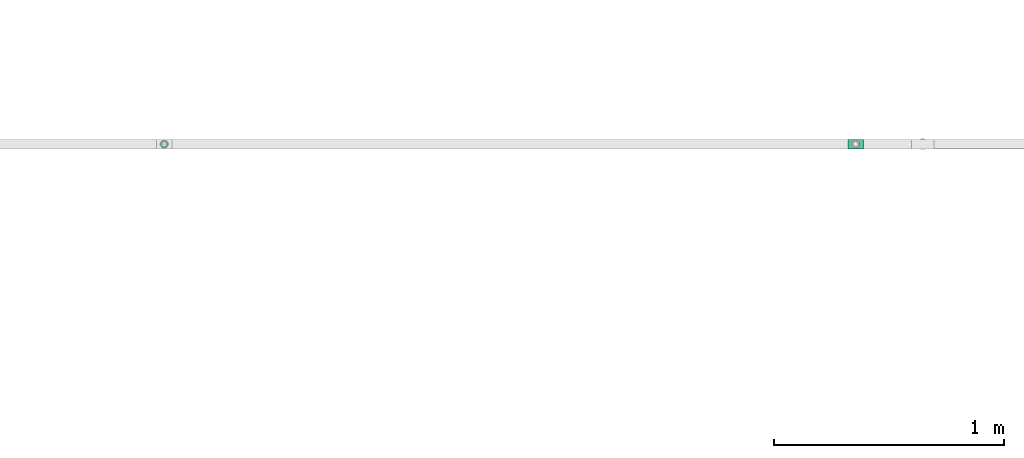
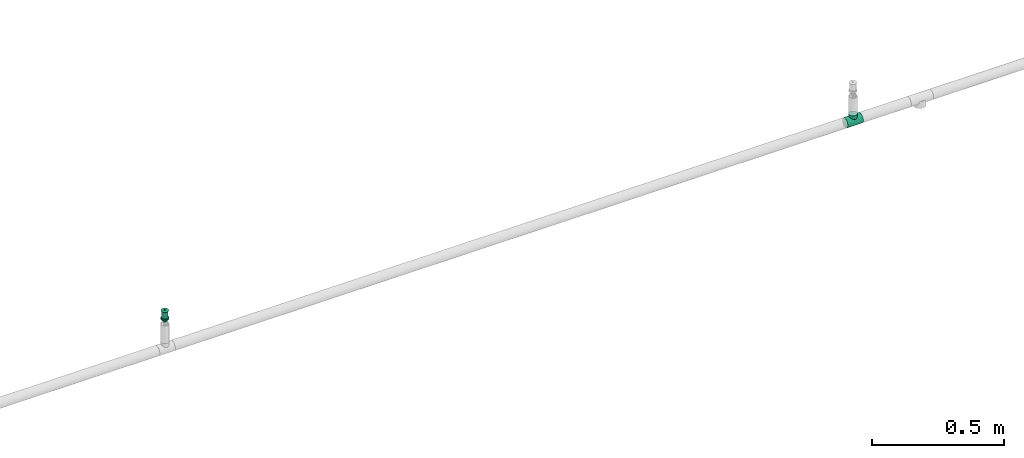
# One storey, part 87 of 94: 1 flow fitting, 1 flow terminal.
"""IFC2X3 building model written with IfcOpenShell, lengths in millimetres."""

from ifc_helpers import new_model, entity, si_unit, converted_unit, derived_unit, direction, frame, origin_with_axes, place, context, subcontext, project, spatial, open_shell, surface_model, source, transform, mapped, type_object, element, save


model = new_model("IFC2X3")

# Units and contexts
model_context = context("Model", 3, precision=0.01, world=frame((0.0, 4.29681676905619e-09, 0.0)), true_north=direction((4.01073788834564e-13, 1.0)))
plan_context = context("Plan", 3, precision=0.01, world=frame((0.0, 4.29681676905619e-09, 0.0)), true_north=direction((4.01073788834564e-13, 1.0)))
body_context = subcontext(model_context, "Body", "Model", "MODEL_VIEW")
ifc_project = project(units=[converted_unit("PLANEANGLEUNIT", "DEGREE", entity("IfcPositiveLengthMeasure", 0.0174532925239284), si_unit("PLANEANGLEUNIT", "RADIAN"), dimensions=[0, 0, 0, 0, 0, 0, 0]), si_unit("AREAUNIT", "SQUARE_METRE"), si_unit("LENGTHUNIT", "METRE", prefix="MILLI"), si_unit("MASSUNIT", "GRAM", prefix="KILO"), si_unit("POWERUNIT", "WATT"), si_unit("PRESSUREUNIT", "PASCAL"), si_unit("FORCEUNIT", "NEWTON", prefix="KILO"), si_unit("ELECTRICCURRENTUNIT", "AMPERE"), si_unit("THERMODYNAMICTEMPERATUREUNIT", "DEGREE_CELSIUS"), si_unit("TIMEUNIT", "SECOND"), si_unit("VOLUMEUNIT", "CUBIC_METRE"), derived_unit("LINEARVELOCITYUNIT", [(si_unit("LENGTHUNIT", "METRE"), 1), (si_unit("TIMEUNIT", "SECOND"), -1)]), derived_unit("VOLUMETRICFLOWRATEUNIT", [(si_unit("VOLUMEUNIT", "CUBIC_METRE"), 1), (si_unit("TIMEUNIT", "SECOND"), -1)]), derived_unit("THERMALTRANSMITTANCEUNIT", [(si_unit("POWERUNIT", "WATT"), 1), (si_unit("THERMODYNAMICTEMPERATUREUNIT", "KELVIN"), -1), (si_unit("AREAUNIT", "SQUARE_METRE"), -1)])], contexts=[model_context, plan_context])

# Site, building, storey
site_placement = place(None, frame((0.0, -4.29681676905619e-09, 0.0), z_axis=(0.0, 0.0, 1.0), x_axis=(1.0, 0.0, 0.0)))
site = spatial("IfcSite", under=ifc_project, at=site_placement, CompositionType="ELEMENT")
building_placement = place(site_placement, frame((0.0, 4.29681676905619e-09, 0.0), z_axis=(0.0, 0.0, 1.0), x_axis=(1.0, 0.0, 0.0)))
building = spatial("IfcBuilding", under=site, at=building_placement, Name="mc-building", CompositionType="ELEMENT")
storey_placement = place(building_placement, frame((0.0, 0.0, 200300.0), z_axis=(0.0, 0.0, 1.0), x_axis=(1.0, 0.0, 0.0)))
storey = spatial("IfcBuildingStorey", under=building, at=storey_placement, Name="Nivå C", CompositionType="ELEMENT", Elevation=200300.0)

# Flow fitting
pipe_fitting_type = type_object("IfcPipeFittingType", Name="magi_pipe_fe_tee_centric_90_NOR", PredefinedType="JUNCTION")
shared_shape_1 = source(origin_with_axes(), body_context, "Body", "SurfaceModel", [
    surface_model("IfcShellBasedSurfaceModel", [(-33.8, 0.0, -21.2), (-33.8, -5.48696, -20.47763), (-33.8, 5.48696, -20.47763), (-33.8, 10.6, -18.35974), (-33.8, 14.99066, -14.99066), (-33.8, -20.47763, 5.48696), (-33.8, 18.35974, -10.6), (-33.8, 10.6, 18.35974), (-33.8, -14.99066, -14.99066), (-33.8, -18.35974, -10.6), (-33.8, -10.6, -18.35974), (-33.8, -20.47763, -5.48696), (-33.8, -21.2, 0.0), (-33.8, 18.35974, 10.6), (-33.8, 20.47763, -5.48696), (-33.8, 20.47763, 5.48696), (-33.8, 21.2, 0.0), (-33.8, 14.99066, 14.99066), (-33.8, 5.48696, 20.47763), (-33.8, 0.0, 21.2), (-33.8, -18.35974, 10.6), (-33.8, -14.99066, 14.99066), (-33.8, -10.6, 18.35974), (-33.8, -5.48696, 20.47763), (33.8, 5.48696, -20.47763), (33.8, -5.48696, -20.47763), (33.8, 0.0, -21.2), (33.8, 14.99066, -14.99066), (33.8, 10.6, -18.35974), (33.8, 18.35974, -10.6), (33.8, 20.47763, -5.48696), (33.8, -21.2, 0.0), (33.8, -10.6, -18.35974), (33.8, -18.35974, -10.6), (33.8, -14.99066, -14.99066), (33.8, -20.47763, -5.48696), (33.8, -20.47763, 5.48696), (33.8, 21.2, 0.0), (33.8, 20.47763, 5.48696), (33.8, 18.35974, 10.6), (33.8, 10.6, 18.35974), (33.8, 14.99066, 14.99066), (33.8, 0.0, 21.2), (33.8, 5.48696, 20.47763), (33.8, -14.99066, 14.99066), (33.8, -18.35974, 10.6), (33.8, -10.6, 18.35974), (33.8, -5.48696, 20.47763), (16.9, -21.2, 0.0), (15.78624, -20.32327, 6.03364), (12.81343, -18.11115, 11.01935), (8.52479, -15.37862, 14.59239), (3.07939, -13.16482, 16.61708), (-16.9, -21.2, 0.0), (-15.78686, -20.32375, 6.032), (-8.52604, -15.37932, 14.59166), (-3.0848, -13.16609, 16.61608), (-12.81602, -18.11299, 11.01634), (3.07939, -13.16482, -16.61708), (12.81343, -18.11115, -11.01935), (8.52479, -15.37862, -14.59239), (15.78624, -20.32327, -6.03364), (-3.0848, -13.16609, -16.61608), (-8.52604, -15.37932, -14.59166), (-12.81602, -18.11299, -11.01634), (-15.78686, -20.32375, -6.032), (4.37404, -31.8, -16.32415), (-16.9, -31.8, 0.0), (0.0, -31.8, -16.9), (14.63583, -31.8, -8.45), (8.45, -31.8, -14.63583), (16.32415, -31.8, -4.37404), (11.9501, -31.8, -11.9501), (-11.9501, -31.8, -11.9501), (-8.45, -31.8, -14.63583), (-4.37404, -31.8, -16.32415), (-14.63583, -31.8, -8.45), (-16.32415, -31.8, -4.37404), (16.9, -31.8, 0.0), (8.45, -31.8, 14.63583), (16.32415, -31.8, 4.37404), (14.63583, -31.8, 8.45), (-8.45, -31.8, 14.63583), (11.9501, -31.8, 11.9501), (4.37404, -31.8, 16.32415), (-16.32415, -31.8, 4.37404), (-11.9501, -31.8, 11.9501), (-14.63583, -31.8, 8.45), (0.0, -31.8, 16.9), (-4.37404, -31.8, 16.32415), (-16.34343, -20.76188, 3.016), (16.34312, -20.76163, 3.01682), (-0.00271, -13.16546, 16.61658), (16.34312, -20.76163, -3.01682), (-0.00271, -13.16546, -16.61658), (-16.34343, -20.76188, -3.016)], [open_shell([[[0, 1, 2]], [[3, 2, 4]], [[5, 2, 1]], [[4, 2, 6]], [[6, 2, 7]], [[8, 9, 10]], [[1, 10, 9]], [[9, 11, 1]], [[12, 1, 11]], [[5, 1, 12]], [[13, 14, 6]], [[13, 15, 16]], [[6, 7, 13]], [[5, 7, 2]], [[17, 13, 7]], [[18, 7, 19]], [[20, 21, 5]], [[22, 5, 21]], [[23, 19, 22]], [[7, 5, 22]], [[22, 19, 7]], [[16, 14, 13]], [[24, 25, 26]], [[27, 24, 28]], [[29, 30, 24]], [[29, 24, 27]], [[31, 24, 30]], [[32, 33, 34]], [[33, 32, 25]], [[33, 31, 35]], [[31, 33, 25]], [[25, 24, 31]], [[30, 36, 31]], [[37, 38, 39]], [[37, 39, 40]], [[37, 40, 36]], [[40, 39, 41]], [[42, 40, 43]], [[36, 44, 45]], [[44, 36, 46]], [[46, 42, 47]], [[46, 36, 40]], [[40, 42, 46]], [[37, 36, 30]], [[31, 36, 48]], [[49, 48, 36]], [[36, 45, 49]], [[45, 44, 50]], [[51, 50, 44]], [[52, 51, 44]], [[44, 46, 52]], [[45, 50, 49]], [[53, 54, 5]], [[5, 12, 53]], [[54, 20, 5]], [[55, 56, 21]], [[20, 57, 21]], [[57, 20, 54]], [[21, 57, 55]], [[56, 22, 21]], [[52, 22, 56]], [[19, 47, 42]], [[23, 46, 47]], [[18, 42, 43]], [[39, 38, 15]], [[17, 40, 41]], [[13, 41, 39]], [[43, 40, 7]], [[16, 38, 37]], [[22, 46, 23]], [[23, 47, 19]], [[18, 19, 42]], [[43, 7, 18]], [[7, 40, 17]], [[13, 17, 41]], [[15, 13, 39]], [[38, 16, 15]], [[46, 22, 52]], [[6, 30, 29]], [[14, 37, 30]], [[4, 29, 27]], [[26, 25, 1]], [[2, 28, 24]], [[0, 24, 26]], [[27, 28, 3]], [[10, 25, 32]], [[16, 37, 14]], [[14, 30, 6]], [[4, 6, 29]], [[27, 3, 4]], [[3, 28, 2]], [[0, 2, 24]], [[1, 0, 26]], [[25, 10, 1]], [[32, 58, 10]], [[34, 59, 60]], [[59, 34, 33]], [[60, 58, 34]], [[34, 58, 32]], [[35, 31, 48]], [[35, 61, 33]], [[61, 35, 48]], [[33, 61, 59]], [[62, 63, 8]], [[8, 64, 9]], [[64, 8, 63]], [[62, 8, 10]], [[65, 53, 11]], [[65, 11, 9]], [[11, 53, 12]], [[65, 9, 64]], [[58, 62, 10]], [[66, 67, 68]], [[69, 66, 70]], [[69, 71, 66]], [[69, 70, 72]], [[67, 66, 71]], [[68, 73, 74]], [[74, 75, 68]], [[76, 67, 77]], [[73, 68, 76]], [[67, 76, 68]], [[71, 78, 67]], [[79, 78, 80]], [[79, 80, 81]], [[82, 67, 79]], [[79, 81, 83]], [[82, 79, 84]], [[85, 86, 87]], [[86, 85, 82]], [[82, 88, 89]], [[85, 67, 82]], [[84, 88, 82]], [[79, 67, 78]], [[85, 90, 67]], [[57, 87, 86]], [[85, 87, 54]], [[86, 82, 55]], [[85, 54, 90]], [[90, 53, 67]], [[54, 87, 57]], [[91, 49, 80]], [[55, 89, 56]], [[55, 57, 86]], [[88, 52, 92]], [[55, 82, 89]], [[52, 88, 84]], [[79, 51, 84]], [[50, 83, 81]], [[83, 51, 79]], [[81, 80, 49]], [[83, 50, 51]], [[51, 52, 84]], [[78, 91, 80]], [[49, 50, 81]], [[91, 78, 48]], [[88, 56, 89]], [[92, 56, 88]], [[71, 93, 78]], [[59, 69, 72]], [[71, 69, 61]], [[72, 70, 60]], [[93, 48, 78]], [[61, 69, 59]], [[60, 66, 58]], [[60, 59, 72]], [[68, 62, 94]], [[60, 70, 66]], [[95, 67, 53]], [[95, 65, 77]], [[71, 61, 93]], [[75, 62, 68]], [[65, 76, 77]], [[73, 76, 64]], [[68, 58, 66]], [[75, 63, 62]], [[63, 75, 74]], [[74, 73, 63]], [[63, 73, 64]], [[64, 76, 65]], [[67, 95, 77]], [[94, 58, 68]]])]),
])
flow_fitting_placement = place(storey_placement, frame((530503.12395, 418699.60987, 2850.0), z_axis=(0.0, 1.0, 0.0), x_axis=(1.0, 0.0, 0.0)))
element("IfcFlowFitting", 1, at=flow_fitting_placement, inside=storey, type_object=pipe_fitting_type, Name="magi_pipe_fe_tee_centric_90_NOR", context=body_context, shape_type="MappedRepresentation", body=[
    mapped(shared_shape_1, transform((0.0, 0.0, 0.0), scale=1.0)),
])

# Flow terminal
fire_suppression_terminal_type = type_object("IfcFireSuppressionTerminalType", Name="68DGR-STD-STÅENDE", PredefinedType="NOTDEFINED")
shared_shape_2 = source(origin_with_axes(), body_context, "Body", "SurfaceModel", [
    surface_model("IfcShellBasedSurfaceModel", [(12.55704, 3.36465, 21.14766), (13.0, 0.0, 21.14766), (12.55704, -3.36465, 21.14766), (-12.55704, -3.36465, 21.14766), (-11.25833, -6.5, 21.14766), (-11.25833, -6.5, 51.0), (3.36465, -12.55704, 51.0), (3.36465, -12.55704, 21.14766), (6.5, -11.25833, 21.14766), (9.19239, -9.19239, 21.14766), (11.25833, -6.5, 21.14766), (9.19239, -9.19239, 51.0), (6.5, -11.25833, 51.0), (11.25833, -6.5, 51.0), (12.55704, -3.36465, 51.0), (13.0, 0.0, 51.0), (9.19239, 9.19239, 51.0), (11.25833, 6.5, 21.14766), (9.19239, 9.19239, 21.14766), (11.25833, 6.5, 51.0), (12.55704, 3.36465, 51.0), (6.5, 11.25833, 51.0), (6.5, 11.25833, 21.14766), (3.36465, 12.55704, 21.14766), (3.36465, 12.55704, 51.0), (-11.25833, 6.5, 51.0), (-11.25833, 6.5, 21.14766), (-12.55704, 3.36465, 21.14766), (0.0, -2.5, 51.0), (-2.5, 0.0, 51.0), (0.0, 2.5, 51.0), (2.5, 0.0, 51.0), (11.31371, 11.31371, 53.0), (-11.31371, 11.31371, 53.0), (-11.31371, -11.31371, 53.0), (11.31371, -11.31371, 53.0), (1.62635, 1.62635, 51.0), (2.16506, 1.25, 51.0), (1.99186, 1.15, 51.0), (-1.76777, 1.76777, 51.0), (-1.25, 2.16506, 51.0), (-1.62635, 1.62635, 51.0), (1.99186, -1.15, 51.0), (2.16506, -1.25, 51.0), (1.62635, -1.62635, 51.0), (-1.62635, -1.62635, 51.0), (-1.25, -2.16506, 51.0), (-1.76777, -1.76777, 51.0), (0.0, 7.3, 0.0), (1.94114, 7.24444, 0.0), (1.88938, 7.05126, 0.0), (5.16188, 5.16188, 0.0), (6.49519, 3.75, 0.0), (6.32199, 3.65, 0.0), (-5.3033, 5.3033, 0.0), (-3.75, 6.49519, 0.0), (-5.16188, 5.16188, 0.0), (6.32199, -3.65, 0.0), (6.49519, -3.75, 0.0), (5.16188, -5.16188, 0.0), (1.88938, -7.05126, 0.0), (1.94114, -7.24444, 0.0), (0.0, -7.3, 0.0), (-5.16188, -5.16188, 0.0), (-3.75, -6.49519, 0.0), (-5.3033, -5.3033, 0.0), (-3.36465, 12.55704, 51.0), (-6.5, 11.25833, 51.0), (0.0, 13.0, 51.0), (-9.19239, 9.19239, 51.0), (0.0, -13.0, 51.0), (-9.19239, -9.19239, 51.0), (-12.55704, -3.36465, 51.0), (-6.5, -11.25833, 51.0), (-3.36465, -12.55704, 51.0), (-7.5, 0.0, -0.1), (-7.24444, 1.94114, 0.1), (-7.24444, 1.94114, -0.1), (-6.49519, 3.75, 0.1), (-6.49519, 3.75, -0.1), (-3.75, 6.49519, -0.1), (-5.3033, 5.3033, -0.1), (-3.75, 6.49519, 0.1), (-5.3033, 5.3033, 0.1), (-1.94114, 7.24444, -0.1), (-1.94114, 7.24444, 0.1), (-7.5, 0.0, 0.1), (0.0, 7.5, 0.1), (0.0, 7.5, -0.1), (1.94114, 7.24444, 0.1), (1.94114, 7.24444, -0.1), (3.75, 6.49519, 0.1), (3.75, 6.49519, -0.1), (6.49519, 3.75, -0.1), (5.3033, 5.3033, -0.1), (6.49519, 3.75, 0.1), (5.3033, 5.3033, 0.1), (7.24444, 1.94114, -0.1), (7.24444, 1.94114, 0.1), (7.5, 0.0, 0.1), (7.5, 0.0, -0.1), (-7.24444, -1.94114, 0.1), (7.24444, -1.94114, 0.1), (5.3033, -5.3033, 0.1), (6.49519, -3.75, 0.1), (-6.49519, -3.75, 0.1), (0.0, -7.5, 0.1), (1.94114, -7.24444, 0.1), (3.75, -6.49519, 0.1), (-3.75, -6.49519, 0.1), (-1.94114, -7.24444, 0.1), (-5.3033, -5.3033, 0.1), (0.0, -7.5, -0.1), (-6.49519, -3.75, -0.1), (1.94114, -7.24444, -0.1), (3.75, -6.49519, -0.1), (5.3033, -5.3033, -0.1), (7.24444, -1.94114, -0.1), (6.49519, -3.75, -0.1), (-3.75, -6.49519, -0.1), (-5.3033, -5.3033, -0.1), (-1.94114, -7.24444, -0.1), (-7.24444, -1.94114, -0.1), (16.0, 0.0, 53.0), (0.0, -16.0, 53.0), (-16.0, 0.0, 53.0), (0.0, 16.0, 53.0), (0.64705, 2.41481, 57.0), (0.0, 2.5, 57.0), (1.25, 2.16506, 57.0), (-2.5, 0.0, 57.0), (1.76777, 1.76777, 57.0), (2.41481, 0.64705, 57.0), (2.16506, 1.25, 57.0), (-0.64705, 2.41481, 57.0), (-1.25, 2.16506, 57.0), (-1.76777, 1.76777, 57.0), (-2.16506, 1.25, 57.0), (-2.41481, 0.64705, 57.0), (2.5, 0.0, 57.0), (1.76777, -1.76777, 57.0), (2.16506, -1.25, 57.0), (2.41481, -0.64705, 57.0), (-2.41481, -0.64705, 57.0), (0.64705, -2.41481, 57.0), (1.25, -2.16506, 57.0), (0.0, -2.5, 57.0), (-1.76777, -1.76777, 57.0), (-2.16506, -1.25, 57.0), (-1.25, -2.16506, 57.0), (-0.64705, -2.41481, 57.0), (1.15, -1.99186, 51.0), (1.76777, -1.76777, 51.0), (1.25, -2.16506, 51.0), (0.59528, -2.22163, 51.0), (0.0, -2.3, 51.0), (0.64705, -2.41481, 51.0), (2.22163, -0.59528, 51.0), (2.3, 0.0, 51.0), (2.41481, -0.64705, 51.0), (-0.64705, -2.41481, 51.0), (-0.59528, -2.22163, 51.0), (-1.15, -1.99186, 51.0), (-2.16506, -1.25, 51.0), (-1.99186, -1.15, 51.0), (-2.22163, -0.59528, 51.0), (-2.3, 0.0, 51.0), (-2.41481, -0.64705, 51.0), (2.22163, 0.59528, 51.0), (2.41481, 0.64705, 51.0), (1.76777, 1.76777, 51.0), (1.15, 1.99186, 51.0), (1.25, 2.16506, 51.0), (0.59528, 2.22163, 51.0), (0.0, 2.3, 51.0), (0.64705, 2.41481, 51.0), (-1.99186, 1.15, 51.0), (-2.16506, 1.25, 51.0), (-2.41481, 0.64705, 51.0), (-2.22163, 0.59528, 51.0), (-0.64705, 2.41481, 51.0), (-0.59528, 2.22163, 51.0), (-1.15, 1.99186, 51.0), (-2.22163, 0.59528, 56.8), (-1.99186, 1.15, 56.8), (-1.15, 1.99186, 56.8), (-1.62635, 1.62635, 56.8), (-0.59528, 2.22163, 56.8), (-2.3, 0.0, 56.8), (0.0, 2.3, 56.8), (0.59528, 2.22163, 56.8), (1.15, 1.99186, 56.8), (1.99186, 1.15, 56.8), (1.62635, 1.62635, 56.8), (2.22163, 0.59528, 56.8), (2.3, 0.0, 56.8), (2.22163, -0.59528, 56.8), (1.99186, -1.15, 56.8), (1.62635, -1.62635, 56.8), (1.15, -1.99186, 56.8), (0.59528, -2.22163, 56.8), (0.0, -2.3, 56.8), (-1.99186, -1.15, 56.8), (-2.22163, -0.59528, 56.8), (-1.62635, -1.62635, 56.8), (-0.59528, -2.22163, 56.8), (-1.15, -1.99186, 56.8), (8.0, -13.85641, 13.0), (4.1411, -15.45481, 13.0), (0.0, -16.0, 13.0), (-4.1411, -15.45481, 13.0), (15.45481, -4.1411, 13.0), (13.85641, -8.0, 13.0), (11.31371, -11.31371, 13.0), (-16.0, 0.0, 13.0), (-8.0, -13.85641, 13.0), (-11.31371, -11.31371, 13.0), (-13.85641, -8.0, 13.0), (-15.45481, -4.1411, 13.0), (15.45481, 4.1411, 13.0), (4.1411, 15.45481, 13.0), (13.85641, 8.0, 13.0), (8.0, 13.85641, 13.0), (11.31371, 11.31371, 13.0), (-15.45481, 4.1411, 13.0), (-11.31371, 11.31371, 13.0), (-8.0, 13.85641, 13.0), (-13.85641, 8.0, 13.0), (-4.1411, 15.45481, 13.0), (0.0, 16.0, 13.0), (16.0, 0.0, 13.0), (7.05126, 1.88938, 12.8), (1.88938, 7.05126, 12.8), (3.65, 6.32199, 12.8), (6.32199, 3.65, 12.8), (5.16188, 5.16188, 12.8), (7.3, 0.0, 12.8), (0.0, 7.3, 12.8), (-3.65, 6.32199, 12.8), (-1.88938, 7.05126, 12.8), (-5.16188, 5.16188, 12.8), (-7.05126, 1.88938, 12.8), (-6.32199, 3.65, 12.8), (7.05126, -1.88938, 12.8), (0.0, -7.3, 12.8), (6.32199, -3.65, 12.8), (3.65, -6.32199, 12.8), (5.16188, -5.16188, 12.8), (1.88938, -7.05126, 12.8), (-7.3, 0.0, 12.8), (-6.32199, -3.65, 12.8), (-7.05126, -1.88938, 12.8), (-1.88938, -7.05126, 12.8), (-5.16188, -5.16188, 12.8), (-3.65, -6.32199, 12.8), (-7.05126, 1.88938, 0.0), (-7.3, 0.0, 0.0), (-6.32199, 3.65, 0.0), (-3.65, 6.32199, 0.0), (-1.88938, 7.05126, 0.0), (3.65, 6.32199, 0.0), (7.05126, 1.88938, 0.0), (7.3, 0.0, 0.0), (3.75, 6.49519, 13.0), (1.94114, 7.24444, 13.0), (7.5, 0.0, 13.0), (5.3033, 5.3033, 13.0), (7.24444, 1.94114, 13.0), (6.49519, 3.75, 13.0), (-5.3033, 5.3033, 13.0), (-7.24444, -1.94114, 13.0), (-1.94114, 7.24444, 13.0), (-3.75, 6.49519, 13.0), (0.0, 7.5, 13.0), (-6.49519, 3.75, 13.0), (-7.24444, 1.94114, 13.0), (7.24444, -1.94114, 13.0), (5.3033, -5.3033, 13.0), (6.49519, -3.75, 13.0), (-6.49519, -3.75, 13.0), (0.0, -7.5, 13.0), (1.94114, -7.24444, 13.0), (3.75, -6.49519, 13.0), (-7.5, 0.0, 13.0), (-3.75, -6.49519, 13.0), (-1.94114, -7.24444, 13.0), (-5.3033, -5.3033, 13.0), (3.65, -6.32199, 0.0), (5.3033, -5.3033, 0.0), (3.75, -6.49519, 0.0), (0.0, -7.5, 0.0), (7.05126, -1.88938, 0.0), (7.24444, -1.94114, 0.0), (7.5, 0.0, 0.0), (-1.94114, -7.24444, 0.0), (-1.88938, -7.05126, 0.0), (-3.65, -6.32199, 0.0), (-6.49519, -3.75, 0.0), (-6.32199, -3.65, 0.0), (-7.05126, -1.88938, 0.0), (-7.24444, -1.94114, 0.0), (-7.5, 0.0, 0.0), (7.24444, 1.94114, 0.0), (5.3033, 5.3033, 0.0), (3.75, 6.49519, 0.0), (0.0, 7.5, 0.0), (-6.49519, 3.75, 0.0), (-7.24444, 1.94114, 0.0), (-1.94114, 7.24444, 0.0), (-12.55704, 3.36465, 51.0), (-13.0, 0.0, 51.0), (0.0, -13.0, 21.14766), (-3.36465, -12.55704, 21.14766), (-6.5, -11.25833, 21.14766), (-9.19239, -9.19239, 21.14766), (-13.0, 0.0, 21.14766), (-9.19239, 9.19239, 21.14766), (-6.5, 11.25833, 21.14766), (-3.36465, 12.55704, 21.14766), (0.0, 13.0, 21.14766), (11.31371, 11.31371, 19.0), (8.0, 13.85641, 19.0), (4.1411, 15.45481, 19.0), (-8.0, 13.85641, 19.0), (16.0, 0.0, 19.0), (15.45481, 4.1411, 19.0), (13.85641, 8.0, 19.0), (-4.1411, 15.45481, 19.0), (0.0, 16.0, 19.0), (-11.31371, 11.31371, 19.0), (-13.85641, 8.0, 19.0), (-15.45481, 4.1411, 19.0), (15.45481, -4.1411, 19.0), (11.31371, -11.31371, 19.0), (13.85641, -8.0, 19.0), (-16.0, 0.0, 19.0), (0.0, -16.0, 19.0), (4.1411, -15.45481, 19.0), (8.0, -13.85641, 19.0), (-13.85641, -8.0, 19.0), (-11.31371, -11.31371, 19.0), (-15.45481, -4.1411, 19.0), (-8.0, -13.85641, 19.0), (-4.1411, -15.45481, 19.0)], [open_shell([[[0, 1, 2]], [[3, 4, 5]], [[6, 7, 8]], [[9, 10, 11]], [[9, 11, 12]], [[10, 13, 11]], [[14, 13, 2]], [[1, 15, 14]], [[16, 17, 18]], [[0, 19, 20]], [[20, 15, 1]], [[21, 16, 18]], [[22, 23, 24]], [[16, 19, 17]], [[25, 26, 27]], [[28, 29, 30]], [[30, 31, 28]], [[31, 30, 32]], [[33, 30, 29]], [[29, 28, 34]], [[35, 28, 31]], [[36, 37, 38]], [[39, 40, 41]], [[42, 43, 44]], [[45, 46, 47]], [[48, 49, 50]], [[51, 52, 53]], [[54, 55, 56]], [[57, 58, 59]], [[60, 61, 62]], [[63, 64, 65]], [[66, 67, 68]], [[67, 24, 68]], [[69, 25, 67]], [[15, 20, 14]], [[70, 6, 12]], [[5, 71, 72]], [[73, 74, 71]], [[72, 71, 74]], [[75, 76, 77]], [[77, 78, 79]], [[80, 81, 82]], [[83, 81, 79]], [[84, 80, 85]], [[76, 78, 77]], [[75, 86, 76]], [[80, 82, 85]], [[82, 81, 83]], [[79, 78, 83]], [[84, 85, 87]], [[87, 88, 84]], [[88, 89, 90]], [[90, 91, 92]], [[93, 94, 95]], [[96, 94, 92]], [[97, 93, 98]], [[91, 96, 92]], [[90, 89, 91]], [[97, 98, 99]], [[98, 93, 95]], [[94, 96, 95]], [[97, 99, 100]], [[87, 89, 88]], [[91, 89, 99]], [[96, 91, 98]], [[91, 99, 98]], [[95, 96, 98]], [[89, 83, 101]], [[85, 82, 87]], [[83, 87, 82]], [[78, 76, 83]], [[89, 87, 83]], [[76, 101, 83]], [[102, 99, 89]], [[103, 104, 102]], [[89, 105, 103]], [[103, 106, 107]], [[108, 103, 107]], [[106, 103, 105]], [[89, 101, 105]], [[101, 76, 86]], [[109, 110, 111]], [[105, 111, 110]], [[106, 105, 110]], [[103, 102, 89]], [[112, 113, 114]], [[115, 114, 116]], [[117, 118, 116]], [[113, 116, 114]], [[116, 113, 117]], [[119, 120, 121]], [[113, 121, 120]], [[121, 113, 112]], [[113, 122, 117]], [[75, 77, 122]], [[100, 117, 122]], [[100, 81, 97]], [[93, 97, 90]], [[90, 92, 94]], [[93, 90, 94]], [[90, 97, 81]], [[79, 81, 77]], [[77, 81, 122]], [[84, 88, 80]], [[81, 80, 88]], [[81, 88, 90]], [[100, 122, 81]], [[100, 102, 117]], [[117, 104, 118]], [[115, 116, 108]], [[103, 116, 118]], [[114, 115, 107]], [[102, 104, 117]], [[100, 99, 102]], [[115, 108, 107]], [[108, 116, 103]], [[118, 104, 103]], [[114, 107, 106]], [[106, 112, 114]], [[112, 110, 121]], [[121, 109, 119]], [[113, 120, 105]], [[111, 120, 119]], [[122, 113, 101]], [[109, 111, 119]], [[121, 110, 109]], [[122, 101, 86]], [[101, 113, 105]], [[120, 111, 105]], [[122, 86, 75]], [[106, 110, 112]], [[31, 123, 35]], [[35, 124, 28]], [[124, 34, 28]], [[29, 34, 125]], [[33, 32, 126]], [[33, 125, 124]], [[124, 32, 33]], [[124, 35, 123]], [[124, 125, 34]], [[123, 32, 124]], [[29, 125, 33]], [[33, 126, 30]], [[126, 32, 30]], [[31, 32, 123]], [[127, 128, 129]], [[129, 130, 131]], [[132, 131, 130]], [[133, 131, 132]], [[130, 129, 128]], [[134, 135, 128]], [[136, 128, 135]], [[137, 138, 136]], [[128, 136, 130]], [[138, 130, 136]], [[139, 132, 130]], [[140, 141, 142]], [[143, 140, 139]], [[144, 140, 143]], [[145, 140, 144]], [[146, 144, 147]], [[139, 130, 143]], [[143, 148, 144]], [[149, 150, 147]], [[144, 148, 147]], [[146, 147, 150]], [[140, 142, 139]], [[151, 152, 153]], [[154, 151, 153]], [[155, 154, 156]], [[153, 156, 154]], [[28, 155, 156]], [[44, 152, 151]], [[157, 158, 159]], [[31, 159, 158]], [[43, 157, 159]], [[152, 44, 43]], [[157, 43, 42]], [[160, 161, 28]], [[161, 155, 28]], [[162, 161, 160]], [[160, 46, 162]], [[162, 46, 45]], [[47, 163, 164]], [[165, 164, 163]], [[45, 47, 164]], [[166, 165, 167]], [[163, 167, 165]], [[29, 166, 167]], [[168, 169, 31]], [[38, 169, 168]], [[169, 38, 37]], [[170, 37, 36]], [[171, 172, 170]], [[173, 172, 171]], [[174, 175, 173]], [[172, 173, 175]], [[30, 175, 174]], [[170, 36, 171]], [[39, 176, 177]], [[41, 176, 39]], [[178, 177, 176]], [[178, 179, 29]], [[176, 179, 178]], [[179, 166, 29]], [[180, 30, 181]], [[182, 180, 181]], [[182, 41, 40]], [[180, 182, 40]], [[181, 30, 174]], [[31, 158, 168]], [[29, 138, 178]], [[178, 137, 177]], [[40, 39, 135]], [[136, 39, 177]], [[180, 40, 134]], [[138, 137, 178]], [[29, 130, 138]], [[40, 135, 134]], [[135, 39, 136]], [[177, 137, 136]], [[180, 134, 128]], [[128, 30, 180]], [[30, 127, 175]], [[175, 129, 172]], [[37, 170, 133]], [[131, 170, 172]], [[169, 37, 132]], [[129, 131, 172]], [[175, 127, 129]], [[169, 132, 139]], [[132, 37, 133]], [[170, 131, 133]], [[169, 139, 31]], [[128, 127, 30]], [[179, 183, 166]], [[176, 184, 179]], [[185, 41, 182]], [[176, 41, 186]], [[187, 182, 181]], [[179, 184, 183]], [[183, 188, 166]], [[187, 185, 182]], [[186, 41, 185]], [[186, 184, 176]], [[189, 187, 181]], [[181, 174, 189]], [[173, 190, 174]], [[171, 191, 173]], [[192, 36, 38]], [[171, 36, 193]], [[194, 38, 168]], [[171, 193, 191]], [[191, 190, 173]], [[195, 194, 168]], [[192, 38, 194]], [[192, 193, 36]], [[158, 195, 168]], [[174, 190, 189]], [[31, 142, 159]], [[159, 141, 43]], [[153, 152, 145]], [[140, 152, 43]], [[156, 153, 144]], [[142, 141, 159]], [[31, 139, 142]], [[153, 145, 144]], [[145, 152, 140]], [[43, 141, 140]], [[156, 144, 146]], [[146, 28, 156]], [[28, 150, 160]], [[160, 149, 46]], [[163, 47, 148]], [[147, 47, 46]], [[167, 163, 143]], [[149, 147, 46]], [[160, 150, 149]], [[167, 143, 130]], [[143, 163, 148]], [[47, 147, 148]], [[167, 130, 29]], [[146, 150, 28]], [[190, 191, 193]], [[190, 193, 195]], [[194, 195, 193]], [[194, 193, 192]], [[190, 195, 186]], [[189, 185, 187]], [[185, 189, 186]], [[186, 183, 184]], [[186, 189, 190]], [[186, 196, 183]], [[186, 195, 196]], [[196, 197, 198]], [[196, 198, 199]], [[199, 200, 201]], [[199, 201, 196]], [[196, 201, 202]], [[188, 202, 203]], [[183, 202, 188]], [[204, 205, 206]], [[205, 204, 202]], [[201, 205, 202]], [[202, 183, 196]], [[157, 196, 158]], [[42, 197, 157]], [[199, 44, 151]], [[42, 44, 198]], [[200, 151, 154]], [[157, 197, 196]], [[196, 195, 158]], [[200, 199, 151]], [[198, 44, 199]], [[198, 197, 42]], [[201, 200, 154]], [[154, 155, 201]], [[161, 205, 155]], [[162, 206, 161]], [[202, 45, 164]], [[162, 45, 204]], [[203, 164, 165]], [[162, 204, 206]], [[206, 205, 161]], [[188, 203, 165]], [[202, 164, 203]], [[202, 204, 45]], [[166, 188, 165]], [[155, 205, 201]], [[207, 208, 209]], [[207, 209, 210]], [[211, 212, 213]], [[213, 207, 214]], [[211, 213, 214]], [[215, 216, 210]], [[217, 210, 216]], [[217, 218, 210]], [[218, 207, 210]], [[218, 214, 207]], [[214, 219, 211]], [[220, 219, 214]], [[221, 219, 220]], [[220, 222, 223]], [[221, 220, 223]], [[214, 224, 220]], [[225, 226, 227]], [[224, 227, 226]], [[228, 229, 226]], [[220, 224, 226]], [[226, 229, 220]], [[219, 230, 211]], [[231, 232, 233]], [[234, 233, 235]], [[231, 236, 232]], [[231, 233, 234]], [[232, 236, 237]], [[237, 238, 239]], [[238, 237, 240]], [[240, 241, 242]], [[240, 237, 236]], [[236, 241, 240]], [[236, 243, 241]], [[244, 243, 245]], [[246, 245, 247]], [[246, 248, 244]], [[246, 244, 245]], [[243, 244, 249]], [[249, 250, 251]], [[250, 249, 252]], [[253, 252, 254]], [[252, 253, 250]], [[249, 244, 252]], [[243, 249, 241]], [[255, 241, 256]], [[257, 242, 255]], [[238, 56, 258]], [[257, 56, 240]], [[239, 258, 259]], [[255, 242, 241]], [[241, 249, 256]], [[239, 238, 258]], [[240, 56, 238]], [[240, 242, 257]], [[237, 239, 259]], [[259, 48, 237]], [[50, 232, 48]], [[260, 233, 50]], [[234, 51, 53]], [[260, 51, 235]], [[231, 53, 261]], [[260, 235, 233]], [[233, 232, 50]], [[236, 231, 261]], [[234, 53, 231]], [[234, 235, 51]], [[262, 236, 261]], [[48, 232, 237]], [[263, 264, 265]], [[266, 263, 267]], [[263, 265, 267]], [[268, 266, 267]], [[264, 269, 270]], [[271, 272, 273]], [[269, 273, 272]], [[274, 275, 269]], [[264, 273, 269]], [[275, 270, 269]], [[276, 265, 264]], [[277, 278, 276]], [[264, 279, 277]], [[277, 280, 281]], [[282, 277, 281]], [[280, 277, 279]], [[264, 270, 279]], [[270, 275, 283]], [[284, 285, 286]], [[279, 286, 285]], [[280, 279, 285]], [[277, 276, 264]], [[287, 288, 289]], [[60, 287, 289]], [[290, 62, 61]], [[289, 61, 60]], [[59, 288, 287]], [[291, 262, 292]], [[293, 292, 262]], [[58, 291, 292]], [[288, 59, 58]], [[291, 58, 57]], [[294, 295, 290]], [[296, 295, 294]], [[294, 64, 296]], [[64, 63, 296]], [[295, 62, 290]], [[65, 297, 298]], [[299, 298, 297]], [[63, 65, 298]], [[256, 299, 300]], [[297, 300, 299]], [[301, 256, 300]], [[261, 302, 293]], [[53, 302, 261]], [[302, 53, 52]], [[303, 52, 51]], [[260, 304, 303]], [[50, 304, 260]], [[304, 50, 49]], [[305, 49, 48]], [[303, 51, 260]], [[54, 257, 306]], [[56, 257, 54]], [[307, 306, 257]], [[307, 255, 301]], [[257, 255, 307]], [[255, 256, 301]], [[308, 305, 259]], [[258, 308, 259]], [[55, 258, 56]], [[308, 258, 55]], [[259, 305, 48]], [[293, 262, 261]], [[301, 275, 307]], [[307, 274, 306]], [[55, 54, 272]], [[269, 54, 306]], [[308, 55, 271]], [[275, 274, 307]], [[301, 283, 275]], [[55, 272, 271]], [[272, 54, 269]], [[306, 274, 269]], [[308, 271, 273]], [[273, 305, 308]], [[305, 264, 49]], [[49, 263, 304]], [[52, 303, 268]], [[266, 303, 304]], [[302, 52, 267]], [[263, 266, 304]], [[49, 264, 263]], [[302, 267, 265]], [[267, 52, 268]], [[303, 266, 268]], [[302, 265, 293]], [[273, 264, 305]], [[293, 276, 292]], [[292, 278, 58]], [[289, 288, 282]], [[277, 288, 58]], [[61, 289, 281]], [[276, 278, 292]], [[293, 265, 276]], [[289, 282, 281]], [[282, 288, 277]], [[58, 278, 277]], [[61, 281, 280]], [[280, 290, 61]], [[290, 285, 294]], [[294, 284, 64]], [[297, 65, 279]], [[286, 65, 64]], [[300, 297, 270]], [[284, 286, 64]], [[294, 285, 284]], [[300, 270, 283]], [[270, 297, 279]], [[65, 286, 279]], [[300, 283, 301]], [[280, 285, 290]], [[291, 243, 262]], [[57, 245, 291]], [[246, 59, 287]], [[57, 59, 247]], [[248, 287, 60]], [[291, 245, 243]], [[243, 236, 262]], [[248, 246, 287]], [[247, 59, 246]], [[247, 245, 57]], [[244, 248, 60]], [[60, 62, 244]], [[295, 252, 62]], [[296, 254, 295]], [[250, 63, 298]], [[296, 63, 253]], [[251, 298, 299]], [[296, 253, 254]], [[254, 252, 295]], [[249, 251, 299]], [[250, 298, 251]], [[250, 253, 63]], [[256, 249, 299]], [[62, 252, 244]], [[16, 21, 24]], [[20, 16, 24]], [[24, 67, 72]], [[19, 16, 20]], [[24, 72, 20]], [[25, 72, 67]], [[309, 310, 25]], [[11, 13, 14]], [[72, 11, 20]], [[74, 12, 11]], [[12, 74, 70]], [[72, 25, 310]], [[72, 74, 11]], [[11, 14, 20]], [[8, 7, 311]], [[8, 311, 312]], [[2, 10, 9]], [[3, 9, 8]], [[3, 26, 9]], [[313, 314, 312]], [[3, 312, 314]], [[4, 3, 314]], [[3, 8, 312]], [[315, 26, 3]], [[2, 9, 26]], [[0, 2, 26]], [[17, 0, 18]], [[23, 22, 18]], [[0, 23, 18]], [[23, 0, 26]], [[316, 317, 26]], [[26, 315, 27]], [[318, 319, 317]], [[23, 26, 317]], [[23, 317, 319]], [[316, 26, 25]], [[318, 317, 67]], [[69, 317, 316]], [[319, 318, 66]], [[310, 309, 315]], [[27, 315, 309]], [[25, 27, 309]], [[25, 69, 316]], [[317, 69, 67]], [[67, 66, 318]], [[66, 68, 319]], [[22, 21, 18]], [[0, 17, 19]], [[1, 0, 20]], [[68, 24, 23]], [[24, 21, 22]], [[319, 68, 23]], [[1, 14, 2]], [[2, 13, 10]], [[6, 311, 7]], [[6, 8, 12]], [[12, 8, 9]], [[6, 70, 311]], [[313, 312, 74]], [[313, 73, 314]], [[71, 4, 314]], [[315, 3, 72]], [[70, 74, 312]], [[74, 73, 313]], [[73, 71, 314]], [[71, 5, 4]], [[3, 5, 72]], [[72, 310, 315]], [[311, 70, 312]], [[320, 321, 322]], [[320, 322, 323]], [[320, 324, 325]], [[326, 320, 325]], [[324, 320, 323]], [[327, 323, 328]], [[323, 322, 328]], [[329, 330, 323]], [[331, 323, 330]], [[323, 331, 324]], [[331, 332, 324]], [[333, 334, 332]], [[335, 333, 331]], [[336, 337, 338]], [[335, 338, 333]], [[338, 335, 336]], [[339, 340, 341]], [[335, 341, 340]], [[342, 343, 340]], [[335, 340, 343]], [[343, 336, 335]], [[332, 331, 333]], [[214, 331, 224]], [[224, 330, 227]], [[226, 225, 323]], [[329, 225, 227]], [[228, 226, 327]], [[331, 330, 224]], [[214, 335, 331]], [[226, 323, 327]], [[323, 225, 329]], [[227, 330, 329]], [[228, 327, 328]], [[328, 229, 228]], [[229, 322, 220]], [[220, 321, 222]], [[221, 223, 326]], [[320, 223, 222]], [[219, 221, 325]], [[321, 320, 222]], [[220, 322, 321]], [[219, 325, 324]], [[325, 221, 326]], [[223, 320, 326]], [[219, 324, 230]], [[328, 322, 229]], [[230, 332, 211]], [[211, 334, 212]], [[207, 213, 338]], [[333, 213, 212]], [[208, 207, 337]], [[332, 334, 211]], [[230, 324, 332]], [[207, 338, 337]], [[338, 213, 333]], [[212, 334, 333]], [[208, 337, 336]], [[336, 209, 208]], [[209, 343, 210]], [[210, 342, 215]], [[217, 216, 339]], [[340, 216, 215]], [[218, 217, 341]], [[342, 340, 215]], [[210, 343, 342]], [[218, 341, 335]], [[341, 217, 339]], [[216, 340, 339]], [[218, 335, 214]], [[336, 343, 209]]])]),
])
flow_terminal_placement = place(storey_placement, frame((527498.12395, 418699.60987, 2972.0), z_axis=(0.0, 0.0, 1.0), x_axis=(-1.0, 0.0, 0.0)))
element("IfcFlowTerminal", 2, at=flow_terminal_placement, inside=storey, type_object=fire_suppression_terminal_type, Name="68DGR-STD-STÅENDE", context=body_context, shape_type="MappedRepresentation", body=[
    mapped(shared_shape_2, transform((0.0, 0.0, 0.0), scale=1.0)),
])

save(model, "model.ifc")
